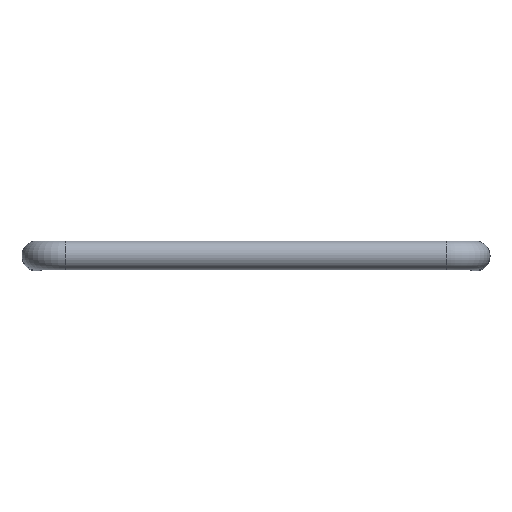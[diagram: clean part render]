
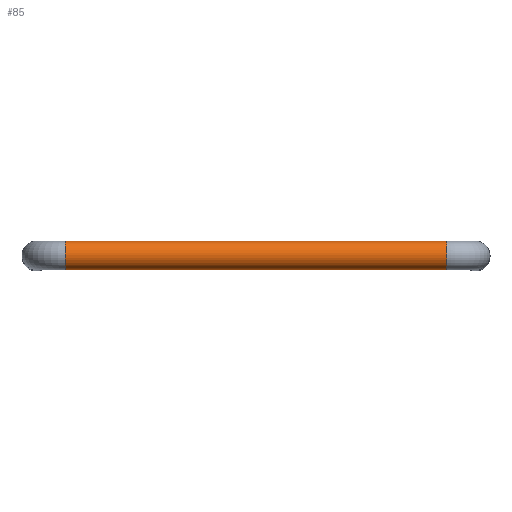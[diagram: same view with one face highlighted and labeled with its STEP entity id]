
A CAD part, top view. The second image highlights one B-rep face of the part: STEP entity #85.
In plain terms, the highlighted cylindrical face has radius 0.25 mm (diameter 0.5 mm), a full revolution.
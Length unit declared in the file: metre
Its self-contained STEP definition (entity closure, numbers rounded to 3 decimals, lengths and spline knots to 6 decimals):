
#16=CYLINDRICAL_SURFACE('',#151,0.00025);
#23=ORIENTED_EDGE('',*,*,#33,.T.);
#24=ORIENTED_EDGE('',*,*,#34,.F.);
#33=EDGE_CURVE('',#39,#39,#45,.T.);
#34=EDGE_CURVE('',#40,#40,#46,.T.);
#39=VERTEX_POINT('',#199);
#40=VERTEX_POINT('',#201);
#45=CIRCLE('',#152,0.00025);
#46=CIRCLE('',#153,0.00025);
#53=EDGE_LOOP('',(#23));
#54=EDGE_LOOP('',(#24));
#65=FACE_BOUND('',#53,.T.);
#66=FACE_BOUND('',#54,.T.);
#85=ADVANCED_FACE('',(#65,#66),#16,.T.);
#151=AXIS2_PLACEMENT_3D('',#197,#174,#175);
#152=AXIS2_PLACEMENT_3D('',#198,#176,#177);
#153=AXIS2_PLACEMENT_3D('',#200,#178,#179);
#174=DIRECTION('',(-1.,0.,0.));
#175=DIRECTION('',(0.,-1.,0.));
#176=DIRECTION('',(1.,0.,0.));
#177=DIRECTION('',(0.,1.,0.));
#178=DIRECTION('',(1.,0.,0.));
#179=DIRECTION('',(0.,1.,0.));
#197=CARTESIAN_POINT('',(-0.058556,-0.005603,0.01642));
#198=CARTESIAN_POINT('',(-0.065176,-0.005603,0.01642));
#199=CARTESIAN_POINT('',(-0.065176,-0.005353,0.01642));
#200=CARTESIAN_POINT('',(-0.058556,-0.005603,0.01642));
#201=CARTESIAN_POINT('',(-0.058556,-0.005353,0.01642));
